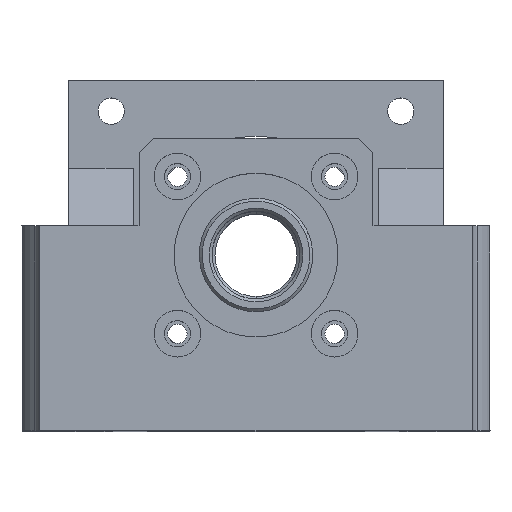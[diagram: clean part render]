
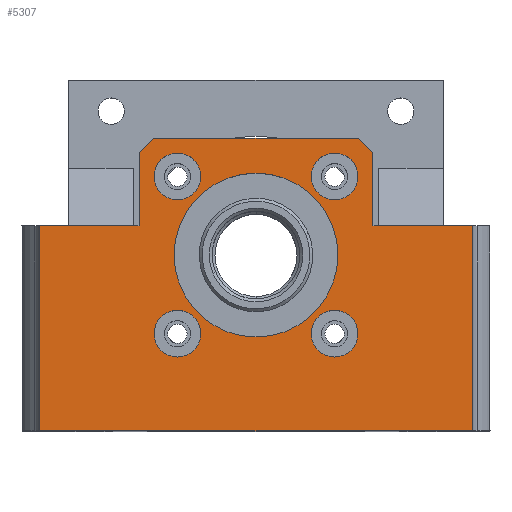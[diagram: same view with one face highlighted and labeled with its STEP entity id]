
A CAD part, top view. The second image highlights one B-rep face of the part: STEP entity #5307.
In plain terms, the highlighted planar face has unit normal (0, 0, 1).
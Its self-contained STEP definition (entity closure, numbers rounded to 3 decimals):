
#3128=DIRECTION('',(-1.,0.,0.));
#3129=VECTOR('',#3128,35.);
#3130=CARTESIAN_POINT('',(17.5,20.,153.));
#3131=LINE('',#3130,#3129);
#3136=DIRECTION('',(-1.,0.,0.));
#3137=VECTOR('',#3136,74.);
#3138=CARTESIAN_POINT('',(37.,-30.,153.));
#3139=LINE('',#3138,#3137);
#3140=DIRECTION('',(0.,1.,0.));
#3141=VECTOR('',#3140,35.);
#3142=CARTESIAN_POINT('',(-37.,-30.,153.));
#3143=LINE('',#3142,#3141);
#3144=DIRECTION('',(0.,1.,0.));
#3145=VECTOR('',#3144,12.5);
#3146=CARTESIAN_POINT('',(-20.,5.,153.));
#3147=LINE('',#3146,#3145);
#3148=DIRECTION('',(0.707,0.707,0.));
#3149=VECTOR('',#3148,3.536);
#3150=CARTESIAN_POINT('',(-20.,17.5,153.));
#3151=LINE('',#3150,#3149);
#3152=DIRECTION('',(0.707,-0.707,0.));
#3153=VECTOR('',#3152,3.536);
#3154=CARTESIAN_POINT('',(17.5,20.,153.));
#3155=LINE('',#3154,#3153);
#3156=CARTESIAN_POINT('',(13.435,-13.435,153.));
#3157=DIRECTION('',(0.,0.,1.));
#3158=DIRECTION('',(-1.,0.,0.));
#3159=AXIS2_PLACEMENT_3D('',#3156,#3157,#3158);
#3161=CARTESIAN_POINT('',(13.435,-13.435,153.));
#3162=DIRECTION('',(0.,0.,1.));
#3163=DIRECTION('',(1.,0.,0.));
#3164=AXIS2_PLACEMENT_3D('',#3161,#3162,#3163);
#3166=CARTESIAN_POINT('',(-13.435,-13.435,153.));
#3167=DIRECTION('',(0.,0.,1.));
#3168=DIRECTION('',(-1.,0.,0.));
#3169=AXIS2_PLACEMENT_3D('',#3166,#3167,#3168);
#3171=CARTESIAN_POINT('',(-13.435,-13.435,153.));
#3172=DIRECTION('',(0.,0.,1.));
#3173=DIRECTION('',(1.,0.,0.));
#3174=AXIS2_PLACEMENT_3D('',#3171,#3172,#3173);
#3176=CARTESIAN_POINT('',(-13.435,13.435,153.));
#3177=DIRECTION('',(0.,0.,1.));
#3178=DIRECTION('',(-1.,0.,0.));
#3179=AXIS2_PLACEMENT_3D('',#3176,#3177,#3178);
#3181=CARTESIAN_POINT('',(-13.435,13.435,153.));
#3182=DIRECTION('',(0.,0.,1.));
#3183=DIRECTION('',(1.,0.,0.));
#3184=AXIS2_PLACEMENT_3D('',#3181,#3182,#3183);
#3186=CARTESIAN_POINT('',(0.,0.,153.));
#3187=DIRECTION('',(0.,0.,1.));
#3188=DIRECTION('',(-1.,0.,0.));
#3189=AXIS2_PLACEMENT_3D('',#3186,#3187,#3188);
#3191=CARTESIAN_POINT('',(0.,0.,153.));
#3192=DIRECTION('',(0.,0.,1.));
#3193=DIRECTION('',(1.,0.,0.));
#3194=AXIS2_PLACEMENT_3D('',#3191,#3192,#3193);
#3196=CARTESIAN_POINT('',(13.435,13.435,153.));
#3197=DIRECTION('',(0.,0.,1.));
#3198=DIRECTION('',(-1.,0.,0.));
#3199=AXIS2_PLACEMENT_3D('',#3196,#3197,#3198);
#3201=CARTESIAN_POINT('',(13.435,13.435,153.));
#3202=DIRECTION('',(0.,0.,1.));
#3203=DIRECTION('',(1.,0.,0.));
#3204=AXIS2_PLACEMENT_3D('',#3201,#3202,#3203);
#3206=DIRECTION('',(0.,1.,0.));
#3207=VECTOR('',#3206,12.5);
#3208=CARTESIAN_POINT('',(20.,5.,153.));
#3209=LINE('',#3208,#3207);
#3267=DIRECTION('',(-1.,0.,0.));
#3268=VECTOR('',#3267,17.);
#3269=CARTESIAN_POINT('',(37.,5.,153.));
#3270=LINE('',#3269,#3268);
#3329=DIRECTION('',(-1.,0.,0.));
#3330=VECTOR('',#3329,17.);
#3331=CARTESIAN_POINT('',(-20.,5.,153.));
#3332=LINE('',#3331,#3330);
#3909=DIRECTION('',(0.,1.,0.));
#3910=VECTOR('',#3909,35.);
#3911=CARTESIAN_POINT('',(37.,-30.,153.));
#3912=LINE('',#3911,#3910);
#4708=CARTESIAN_POINT('',(17.5,20.,153.));
#4709=CARTESIAN_POINT('',(-17.5,20.,153.));
#4710=VERTEX_POINT('',#4708);
#4711=VERTEX_POINT('',#4709);
#4718=CARTESIAN_POINT('',(20.,5.,153.));
#4719=CARTESIAN_POINT('',(20.,17.5,153.));
#4720=VERTEX_POINT('',#4718);
#4721=VERTEX_POINT('',#4719);
#4722=CARTESIAN_POINT('',(37.,5.,153.));
#4723=VERTEX_POINT('',#4722);
#4724=CARTESIAN_POINT('',(37.,-30.,153.));
#4725=VERTEX_POINT('',#4724);
#4726=CARTESIAN_POINT('',(-37.,-30.,153.));
#4727=VERTEX_POINT('',#4726);
#4728=CARTESIAN_POINT('',(-37.,5.,153.));
#4729=VERTEX_POINT('',#4728);
#4730=CARTESIAN_POINT('',(-20.,5.,153.));
#4731=VERTEX_POINT('',#4730);
#4732=CARTESIAN_POINT('',(-20.,17.5,153.));
#4733=VERTEX_POINT('',#4732);
#4734=CARTESIAN_POINT('',(9.435,-13.435,153.));
#4735=CARTESIAN_POINT('',(17.435,-13.435,153.));
#4736=VERTEX_POINT('',#4734);
#4737=VERTEX_POINT('',#4735);
#4738=CARTESIAN_POINT('',(-17.435,-13.435,153.));
#4739=CARTESIAN_POINT('',(-9.435,-13.435,153.));
#4740=VERTEX_POINT('',#4738);
#4741=VERTEX_POINT('',#4739);
#4742=CARTESIAN_POINT('',(-17.435,13.435,153.));
#4743=CARTESIAN_POINT('',(-9.435,13.435,153.));
#4744=VERTEX_POINT('',#4742);
#4745=VERTEX_POINT('',#4743);
#4746=CARTESIAN_POINT('',(-14.,0.,153.));
#4747=CARTESIAN_POINT('',(14.,0.,153.));
#4748=VERTEX_POINT('',#4746);
#4749=VERTEX_POINT('',#4747);
#4750=CARTESIAN_POINT('',(9.435,13.435,153.));
#4751=CARTESIAN_POINT('',(17.435,13.435,153.));
#4752=VERTEX_POINT('',#4750);
#4753=VERTEX_POINT('',#4751);
#5251=CARTESIAN_POINT('',(0.,-74.607,153.));
#5252=DIRECTION('',(0.,0.,1.));
#5253=DIRECTION('',(-1.,0.,0.));
#5254=AXIS2_PLACEMENT_3D('',#5251,#5252,#5253);
#5255=PLANE('',#5254);
#5257=ORIENTED_EDGE('',*,*,#5256,.F.);
#5259=ORIENTED_EDGE('',*,*,#5258,.F.);
#5261=ORIENTED_EDGE('',*,*,#5260,.F.);
#5263=ORIENTED_EDGE('',*,*,#5262,.T.);
#5265=ORIENTED_EDGE('',*,*,#5264,.T.);
#5267=ORIENTED_EDGE('',*,*,#5266,.F.);
#5269=ORIENTED_EDGE('',*,*,#5268,.T.);
#5271=ORIENTED_EDGE('',*,*,#5270,.T.);
#5272=ORIENTED_EDGE('',*,*,#5234,.F.);
#5274=ORIENTED_EDGE('',*,*,#5273,.T.);
#5275=EDGE_LOOP('',(#5257,#5259,#5261,#5263,#5265,#5267,#5269,#5271,#5272,
#5274));
#5276=FACE_OUTER_BOUND('',#5275,.F.);
#5278=ORIENTED_EDGE('',*,*,#5277,.T.);
#5280=ORIENTED_EDGE('',*,*,#5279,.T.);
#5281=EDGE_LOOP('',(#5278,#5280));
#5282=FACE_BOUND('',#5281,.F.);
#5284=ORIENTED_EDGE('',*,*,#5283,.T.);
#5286=ORIENTED_EDGE('',*,*,#5285,.T.);
#5287=EDGE_LOOP('',(#5284,#5286));
#5288=FACE_BOUND('',#5287,.F.);
#5290=ORIENTED_EDGE('',*,*,#5289,.T.);
#5292=ORIENTED_EDGE('',*,*,#5291,.T.);
#5293=EDGE_LOOP('',(#5290,#5292));
#5294=FACE_BOUND('',#5293,.F.);
#5296=ORIENTED_EDGE('',*,*,#5295,.T.);
#5298=ORIENTED_EDGE('',*,*,#5297,.T.);
#5299=EDGE_LOOP('',(#5296,#5298));
#5300=FACE_BOUND('',#5299,.F.);
#5302=ORIENTED_EDGE('',*,*,#5301,.T.);
#5304=ORIENTED_EDGE('',*,*,#5303,.T.);
#5305=EDGE_LOOP('',(#5302,#5304));
#5306=FACE_BOUND('',#5305,.F.);
#3160=CIRCLE('',#3159,4.);
#3165=CIRCLE('',#3164,4.);
#3170=CIRCLE('',#3169,4.);
#3175=CIRCLE('',#3174,4.);
#3180=CIRCLE('',#3179,4.);
#3185=CIRCLE('',#3184,4.);
#3190=CIRCLE('',#3189,14.);
#3195=CIRCLE('',#3194,14.);
#3200=CIRCLE('',#3199,4.);
#3205=CIRCLE('',#3204,4.);
#5234=EDGE_CURVE('',#4710,#4711,#3131,.T.);
#5256=EDGE_CURVE('',#4720,#4721,#3209,.T.);
#5258=EDGE_CURVE('',#4723,#4720,#3270,.T.);
#5260=EDGE_CURVE('',#4725,#4723,#3912,.T.);
#5262=EDGE_CURVE('',#4725,#4727,#3139,.T.);
#5264=EDGE_CURVE('',#4727,#4729,#3143,.T.);
#5266=EDGE_CURVE('',#4731,#4729,#3332,.T.);
#5268=EDGE_CURVE('',#4731,#4733,#3147,.T.);
#5270=EDGE_CURVE('',#4733,#4711,#3151,.T.);
#5273=EDGE_CURVE('',#4710,#4721,#3155,.T.);
#5277=EDGE_CURVE('',#4736,#4737,#3160,.T.);
#5279=EDGE_CURVE('',#4737,#4736,#3165,.T.);
#5283=EDGE_CURVE('',#4740,#4741,#3170,.T.);
#5285=EDGE_CURVE('',#4741,#4740,#3175,.T.);
#5289=EDGE_CURVE('',#4744,#4745,#3180,.T.);
#5291=EDGE_CURVE('',#4745,#4744,#3185,.T.);
#5295=EDGE_CURVE('',#4748,#4749,#3190,.T.);
#5297=EDGE_CURVE('',#4749,#4748,#3195,.T.);
#5301=EDGE_CURVE('',#4752,#4753,#3200,.T.);
#5303=EDGE_CURVE('',#4753,#4752,#3205,.T.);
#5307=ADVANCED_FACE('',(#5276,#5282,#5288,#5294,#5300,#5306),#5255,.T.);
